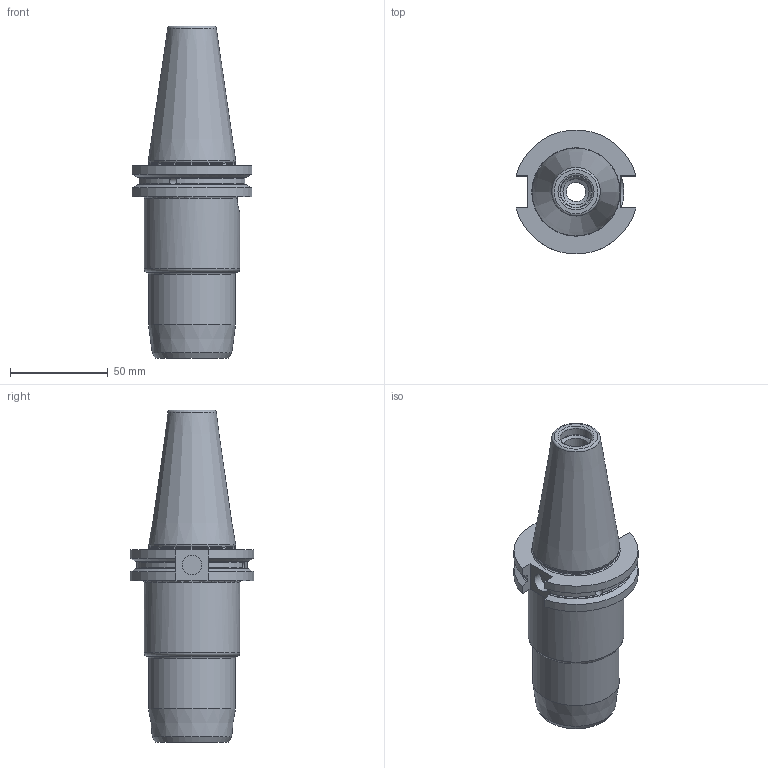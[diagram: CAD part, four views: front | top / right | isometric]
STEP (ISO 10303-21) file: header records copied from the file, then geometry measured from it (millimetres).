
FILE_DESCRIPTION( ( 'STEP AP214' ), '1' );
FILE_NAME( 'X:/Denzer2/tendo_platinum_skg/SCHUNK-1447901 TENDO P CAT40 D3_4x4.stp', '2022-11-09T07:55:14', ( '' ), ( '' ), ' ', 'PARTsolutions', ' ' );
FILE_SCHEMA( ( 'AUTOMOTIVE_DESIGN { 1 0 10303 214 1 1 1 1 }' ) );
Length unit declared in the file: millimetre
Products named in the file (1): _SCHUNK-1447901 TENDO P CAT40 D3/4x4, 50.5
Bounding box: 61.35 x 63.26 x 169.85 mm (x, y, z)
Volume: 223539.1 mm3; surface area: 35956.9 mm2
Topology: 1 solids, 1 shells, 69 faces, 183 edges, 117 vertices
Faces by surface type: plane 23, cylinder 19, torus 15, cone 12
Full cylindrical faces by diameter (mm): 4 x2, 10 x2, 13.376 x1, 16.47 x1, 19.05 x1, 44.047 x1, 44.45 x1, 49 x1
Entity records: 2880 total; most frequent: CARTESIAN_POINT 754, DIRECTION 316, ORIENTED_EDGE 304, EDGE_CURVE 152, AXIS2_PLACEMENT_3D 134, VERTEX_POINT 110, EDGE_LOOP 100, FACE_OUTER_BOUND 85
